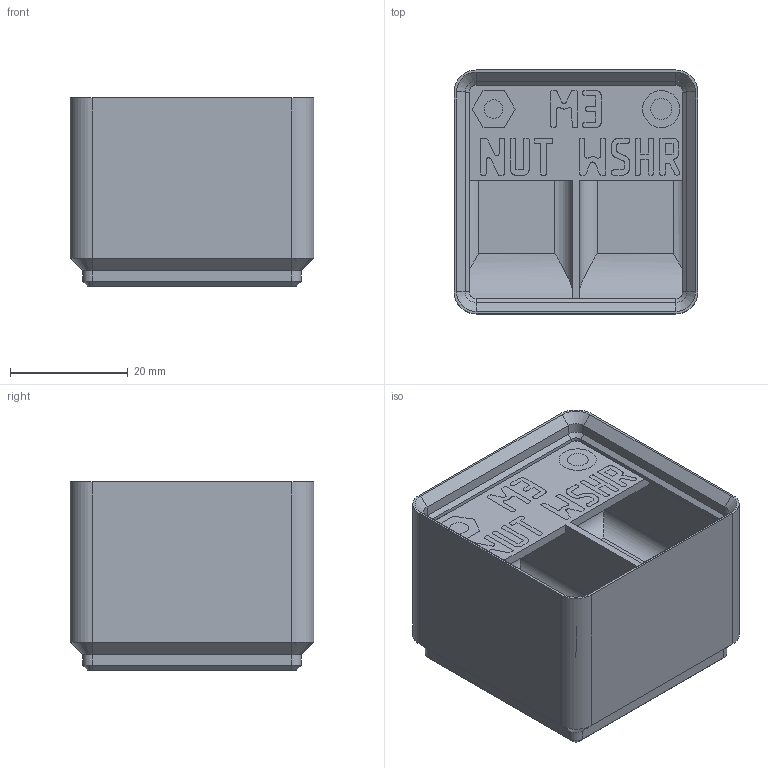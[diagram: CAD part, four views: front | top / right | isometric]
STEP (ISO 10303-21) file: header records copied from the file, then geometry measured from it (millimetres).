
FILE_DESCRIPTION(('Open CASCADE Model'),'2;1');
FILE_NAME('bin_M3_NUT-WSHR','2026-11-03T10:51:35',('Author'),( 'Open CASCADE'),'Open CASCADE STEP processor 8.0','build123d', 'Unknown');
FILE_SCHEMA(('AUTOMOTIVE_DESIGN { 1 0 10303 214 1 1 1 1 }'));
Length unit declared in the file: millimetre
Products named in the file (3): bin_M3_NUT-WSHR; M3_NUT-WSHR_body; M3_NUT-WSHR_label
Assembly tree (2 placements, depth 2):
  bin_M3_NUT-WSHR
    M3_NUT-WSHR_body
    M3_NUT-WSHR_label
Bounding box: 41.5 x 41.5 x 32 mm (x, y, z)
Volume: 30935.7 mm3; surface area: 12850.6 mm2
Topology: 12 solids, 12 shells, 1983 faces, 5772 edges, 3828 vertices
Faces by surface type: plane 1933, cylinder 30, cone 20
Full cylindrical faces by diameter (mm): 3.15 x2, 3.591 x2, 6.3 x2
Entity records: 139510 total; most frequent: CARTESIAN_POINT 24030, DIRECTION 21092, LINE 16956, VECTOR 16956, ORIENTED_EDGE 11544, PCURVE 11544, DEFINITIONAL_REPRESENTATION 11544, EDGE_CURVE 5772
